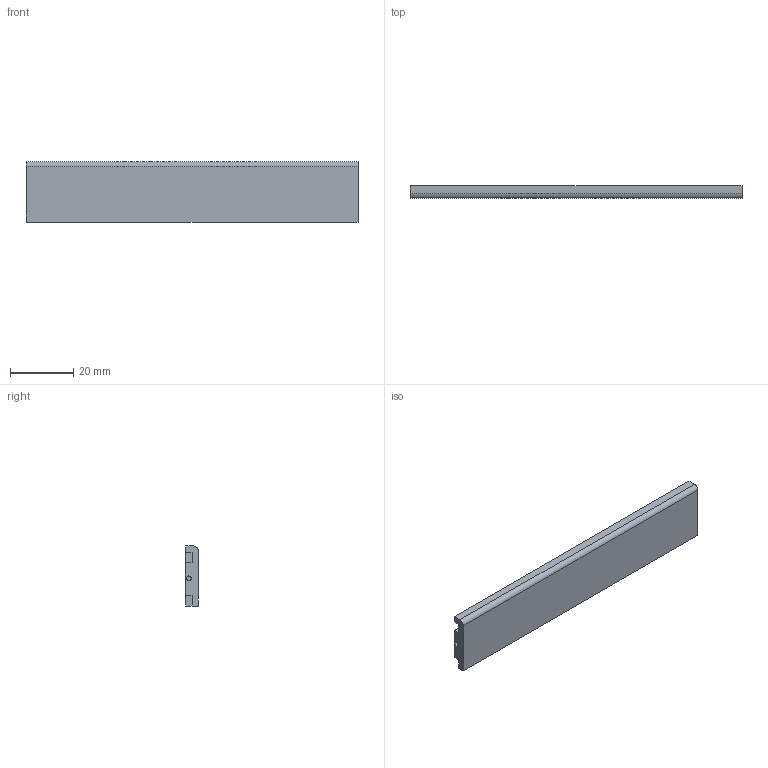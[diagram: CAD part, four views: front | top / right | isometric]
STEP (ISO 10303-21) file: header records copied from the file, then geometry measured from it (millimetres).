
FILE_DESCRIPTION (( 'STEP AP214' ), '1' );
FILE_NAME ('萇喀裔.STEP', '2017-08-07T03:18:43', ( '' ), ( '' ), 'SwSTEP 2.0', 'SolidWorks 2016', '' );
FILE_SCHEMA (( 'AUTOMOTIVE_DESIGN' ));
Length unit declared in the file: millimetre
Products named in the file (1): 萇喀裔
Bounding box: 105 x 4 x 19 mm (x, y, z)
Volume: 5399.6 mm3; surface area: 5856.6 mm2
Topology: 1 solids, 1 shells, 63 faces, 165 edges, 110 vertices
Faces by surface type: plane 58, cylinder 5
Entity records: 1951 total; most frequent: CARTESIAN_POINT 339, ORIENTED_EDGE 330, DIRECTION 303, EDGE_CURVE 165, LINE 155, VECTOR 155, VERTEX_POINT 110, AXIS2_PLACEMENT_3D 74
